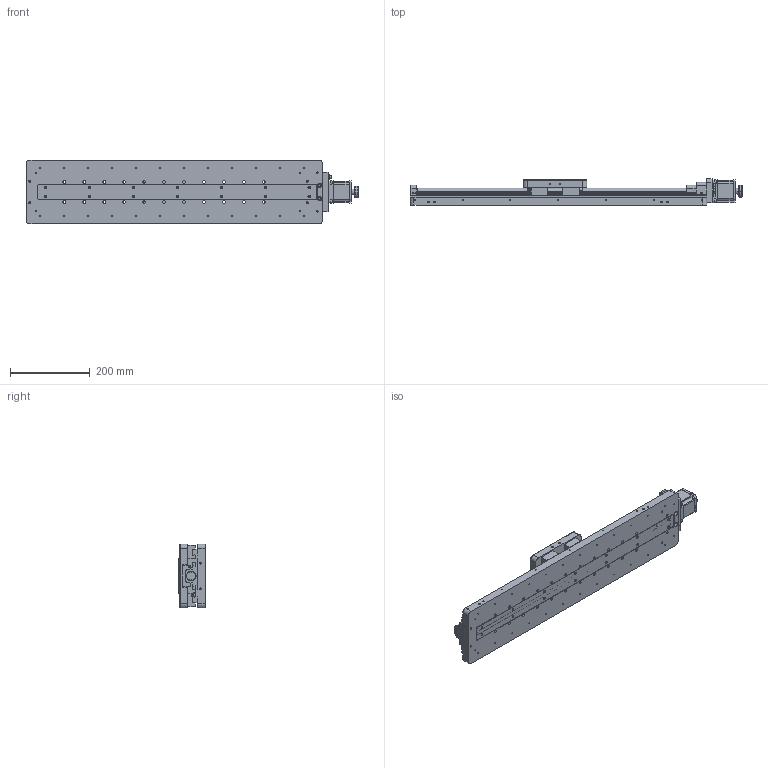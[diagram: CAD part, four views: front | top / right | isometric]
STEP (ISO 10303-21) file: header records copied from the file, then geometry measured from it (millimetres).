
FILE_DESCRIPTION (( 'STEP AP203' ), '1' );
FILE_NAME ('7STA03500Bµç¶¯Æ½ÒÆÌ¨.STEP', '2022-07-07T08:36:14', ( '' ), ( '' ), 'SwSTEP 2.0', 'SolidWorks 2018', '' );
FILE_SCHEMA (( 'CONFIG_CONTROL_DESIGN' ));
Length unit declared in the file: millimetre
Products named in the file (1): 7STA03500B萇雄す痄怢
Bounding box: 831 x 66.5 x 160 mm (x, y, z)
Surface area: 562133.9 mm2 (no closed solid volume)
Topology: 0 solids, 138 shells, 1377 faces, 4911 edges, 3601 vertices
Faces by surface type: plane 613, cylinder 576, torus 92, cone 70, sphere 26
Entity records: 53457 total; most frequent: CARTESIAN_POINT 10596, DIRECTION 9446, ORIENTED_EDGE 7491, EDGE_CURVE 4837, VERTEX_POINT 3573, AXIS2_PLACEMENT_3D 3361, LINE 2724, VECTOR 2724
